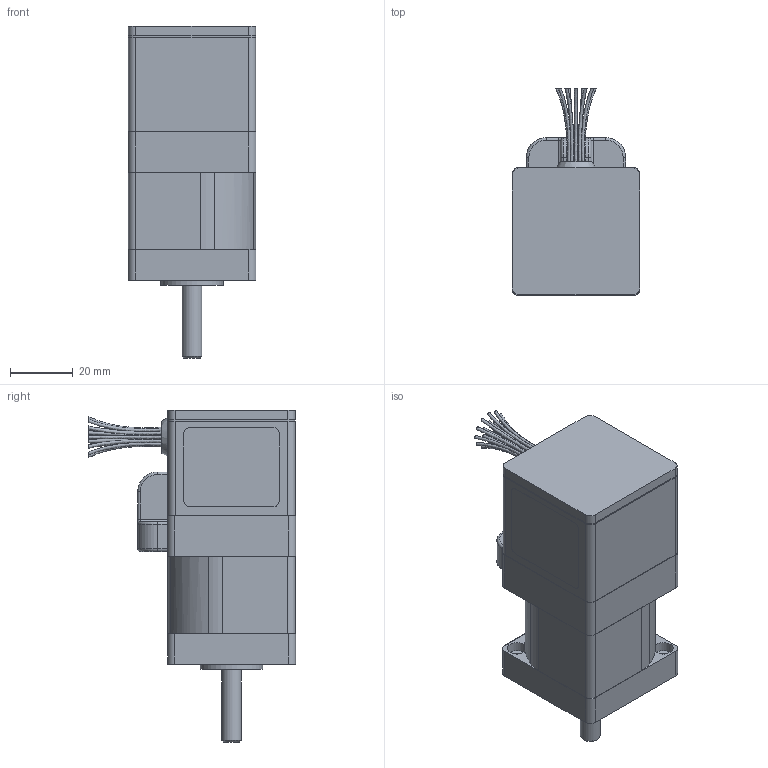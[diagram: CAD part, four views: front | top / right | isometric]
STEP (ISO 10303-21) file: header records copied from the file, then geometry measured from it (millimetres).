
FILE_DESCRIPTION((''),'2;1');
FILE_NAME('C:\CAD_work\Dummy_Modeling_Project_02-12-05\3D MODELS\BE162_FL.stp','2005-12-20T15:13:00',('jevans'),(''),'Autodesk Inventor 10','Autodesk Inventor 10','');
FILE_SCHEMA(('AUTOMOTIVE_DESIGN { 1 0 10303 214 1 1 1 1 }'));
Length unit declared in the file: inch
Products named in the file (1): BE16_FL
Bounding box: 40.89 x 66.17 x 106.07 mm (x, y, z)
Volume: 135235.6 mm3; surface area: 20996.4 mm2
Topology: 1 solids, 1 shells, 210 faces, 503 edges, 310 vertices
Faces by surface type: plane 100, cylinder 71, bspline 28, torus 10, cone 1
Full cylindrical faces by diameter (mm): 1.7 x2, 6.35 x2, 8.992 x1, 11.176 x1, 15.697 x1, 17 x1, 17.018 x2, 18.009 x1, 20.015 x1
Entity records: 8246 total; most frequent: CARTESIAN_POINT 3418, DIRECTION 1019, ORIENTED_EDGE 948, EDGE_CURVE 474, AXIS2_PLACEMENT_3D 410, VERTEX_POINT 303, EDGE_LOOP 279, CIRCLE 215
